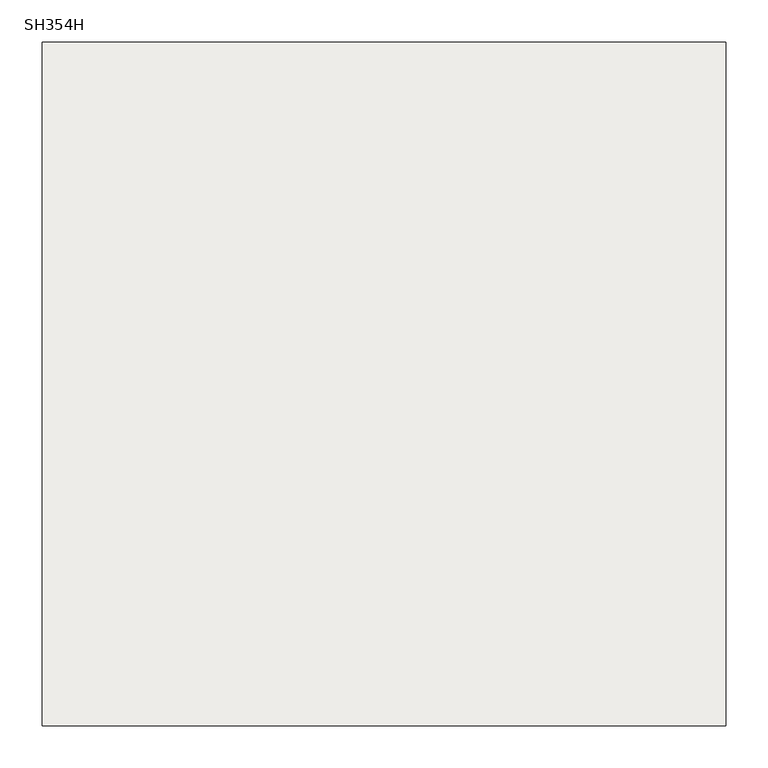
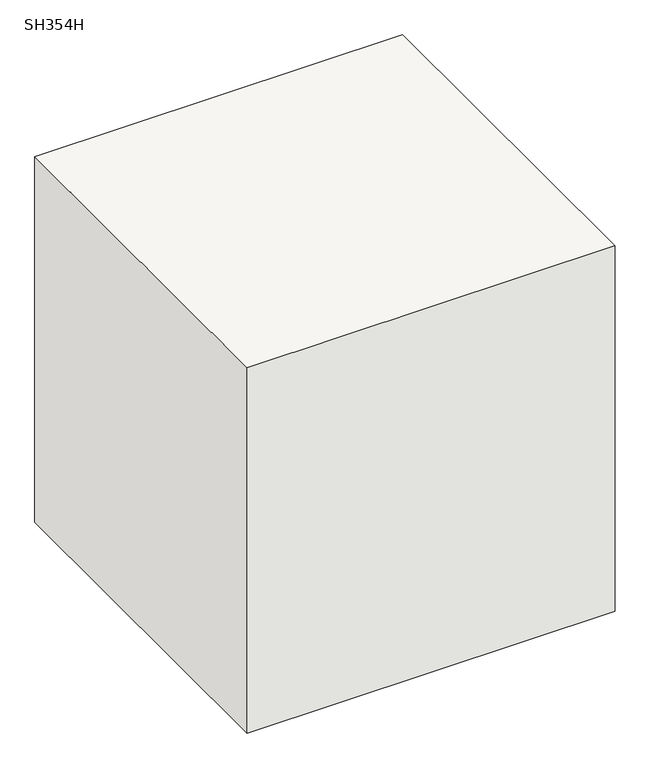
"""IFC4 building model written with IfcOpenShell, lengths in millimetres: slab geometry, 柱形_SH : SH354H."""

from ifc_helpers import new_model, si_unit, frame, origin, place, context, project, spatial, polyline, outline, extrude, source, transform, mapped, element, save


def sh354h_d327f54e(model_context):
    return source(origin(), model_context, "Body", "SweptSolid", [
        extrude(outline(polyline([(405.0, 405.0), (405.0, -405.0), (-405.0, -405.0), (-405.0, 405.0), (405.0, 405.0)])), frame((0.0, 0.0, -850.0), z_axis=(0.0, 0.0, 1.0), x_axis=(1.0, 0.0, 0.0)), (0.0, 0.0, 1.0), 850.0),
    ])


if __name__ == "__main__":
    model = new_model("IFC4")
    model_context = context("Model", 3, world=origin())
    ifc_project = project(units=[si_unit("LENGTHUNIT", "METRE", prefix="MILLI")], contexts=[model_context])
    site = spatial("IfcSite", under=ifc_project)
    building = spatial("IfcBuilding", under=site)
    placement = place(None, origin())
    sh354h_shape = sh354h_d327f54e(model_context)
    element("IfcSlab", 1, ObjectType="柱形_SH : SH354H", at=placement, inside=building, context=model_context, shape_type="MappedRepresentation", body=[
        mapped(sh354h_shape, transform((0.0, 0.0, 0.0), x_axis=(1.0, 0.0, 0.0), y_axis=(0.0, 1.0, 0.0), z_axis=(0.0, 0.0, 1.0))),
    ])
    save(model, "model.ifc")
